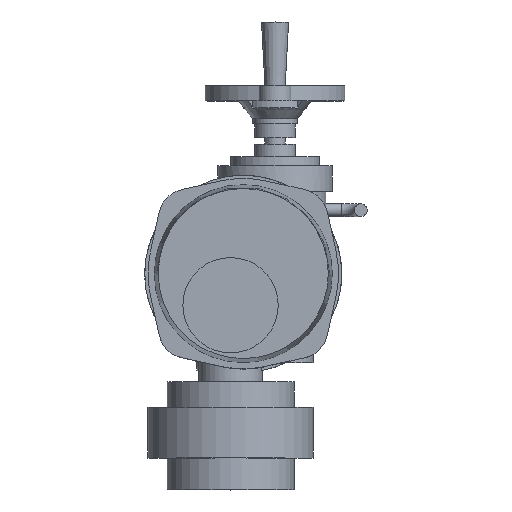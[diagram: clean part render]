
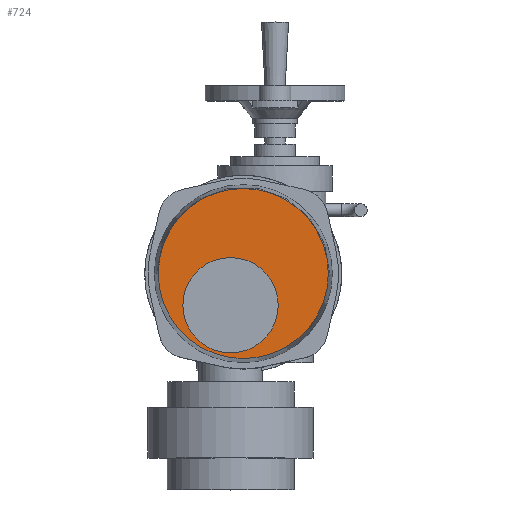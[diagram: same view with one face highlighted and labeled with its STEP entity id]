
A CAD part, top view. The second image highlights one B-rep face of the part: STEP entity #724.
In plain terms, the highlighted planar face has unit normal (0, 0, 1).
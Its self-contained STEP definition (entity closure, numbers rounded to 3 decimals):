
#724=ADVANCED_FACE('',(#7061,#7063),#7065,.T.);
#7061=FACE_BOUND('',#7062,.T.);
#7062=EDGE_LOOP('',(#11975));
#7063=FACE_BOUND('',#7064,.T.);
#7064=EDGE_LOOP('',(#11976));
#7065=PLANE('',#7066);
#7066=AXIS2_PLACEMENT_3D('',#7067,#7068,#7069);
#7067=CARTESIAN_POINT('',(15.,30.,372.));
#7068=DIRECTION('',(0.,0.,1.));
#7069=DIRECTION('',(-1.,0.,0.));
#11975=ORIENTED_EDGE('',*,*,#15785,.T.);
#11976=ORIENTED_EDGE('',*,*,#15788,.F.);
#15785=EDGE_CURVE('',#17904,#17904,#17905,.T.);
#15788=EDGE_CURVE('',#17910,#17910,#17911,.T.);
#17904=VERTEX_POINT('',#22246);
#17905=CIRCLE('',#22247,66.908);
#17910=VERTEX_POINT('',#22261);
#17911=CIRCLE('',#22262,37.5);
#22246=CARTESIAN_POINT('',(-51.908,30.,372.));
#22247=AXIS2_PLACEMENT_3D('',#22248,#22249,#22250);
#22248=CARTESIAN_POINT('',(15.,30.,372.));
#22249=DIRECTION('',(0.,0.,1.));
#22250=DIRECTION('',(-1.,0.,0.));
#22261=CARTESIAN_POINT('',(-32.5,5.,372.));
#22262=AXIS2_PLACEMENT_3D('',#22263,#22264,#22265);
#22263=CARTESIAN_POINT('',(5.,5.,372.));
#22264=DIRECTION('',(0.,0.,1.));
#22265=DIRECTION('',(-1.,0.,0.));
